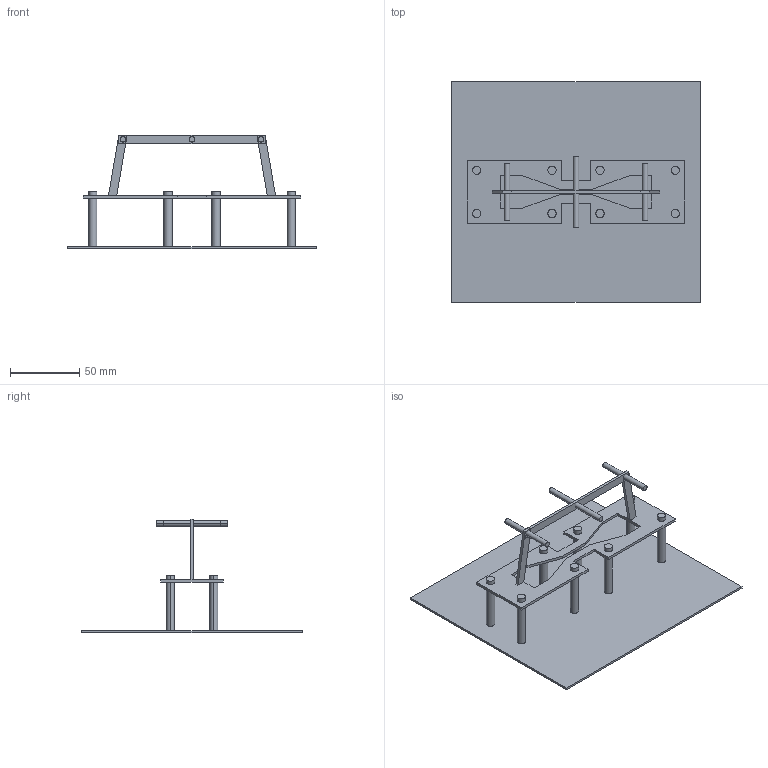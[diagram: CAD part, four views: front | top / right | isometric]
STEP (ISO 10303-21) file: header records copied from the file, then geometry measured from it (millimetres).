
FILE_DESCRIPTION(('STEP AP214'),'1');
FILE_NAME('swslda.stp','2020-03-03T15:54:16',('Igor'),(' '),'Spatial InterOp 3D','CST ACIS InterOp Converter 2016',' ');
FILE_SCHEMA(('AUTOMOTIVE_DESIGN { 1 0 10303 214 1 1 1 1 }'));
Length unit declared in the file: millimetre
Products named in the file (1): Refl|Reflector
Bounding box: 180 x 160 x 82.2 mm (x, y, z)
Volume: 65550.8 mm3; surface area: 81613 mm2
Topology: 24 solids, 24 shells, 142 faces, 283 edges, 190 vertices
Faces by surface type: plane 88, cylinder 54
Entity records: 4045 total; most frequent: DIRECTION 725, CARTESIAN_POINT 638, ORIENTED_EDGE 564, EDGE_CURVE 282, AXIS2_PLACEMENT_3D 275, VERTEX_POINT 188, LINE 175, VECTOR 175
